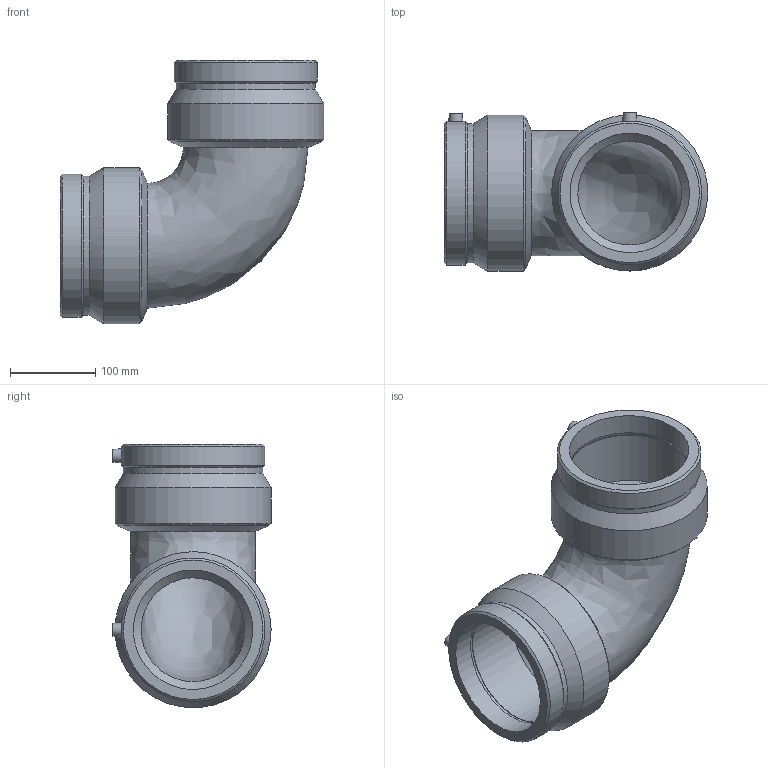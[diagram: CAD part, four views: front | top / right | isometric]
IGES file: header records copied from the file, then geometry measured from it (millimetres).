
Global section: file name: 490504140; native system: Autodesk Inventor 2026; preprocessor: unknown; author: KIM; date: 20260322.131249; units: millimetre
Bounding box: 308.97 x 185.5 x 308.97 mm (x, y, z)
Volume: 2759127.6 mm3; surface area: 388469.4 mm2
Topology: 1 solids, 1 shells, 42 faces, 108 edges, 76 vertices
Faces by surface type: bspline 42
